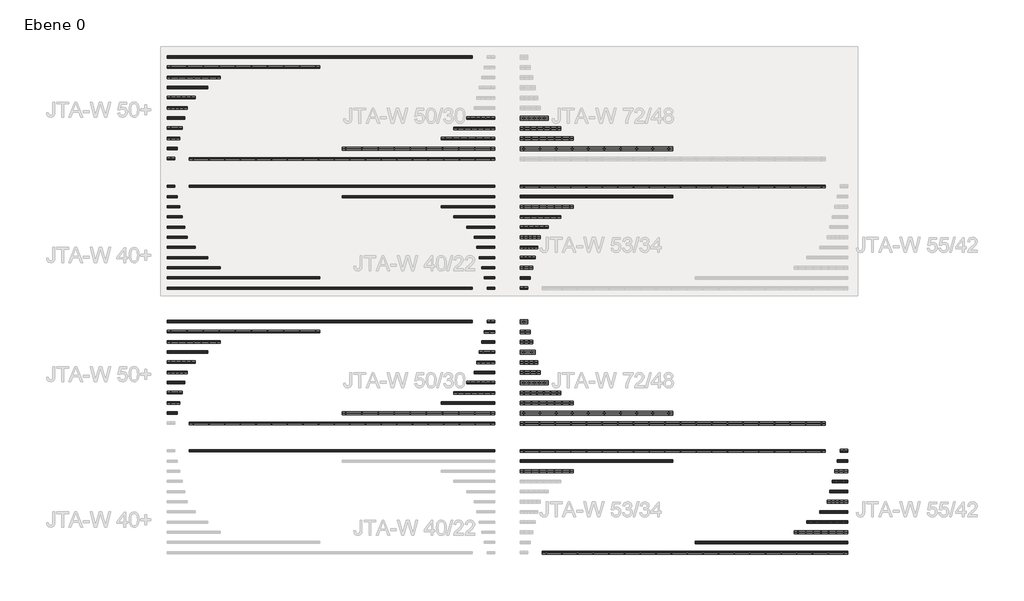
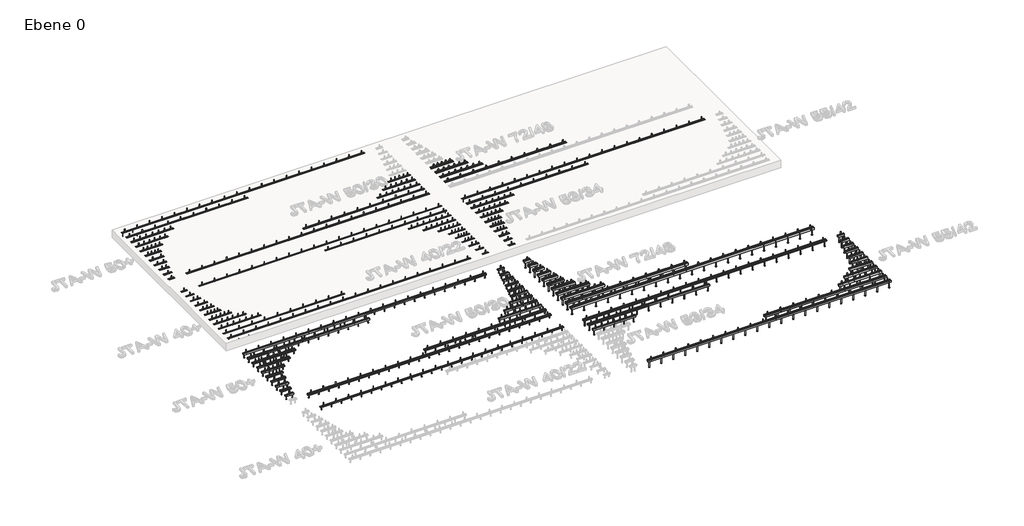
# One storey, part 2 of 5: 100 fasteners.
"""IFC4 building model written with IfcOpenShell, lengths in millimetres."""

from ifc_helpers import new_model, si_unit, origin, place, context, project, spatial, transform, mapped, element, save
from components import fastener_29043b39, fastener_6a5caa7f, fastener_70fd4501, fastener_dd962dd3, fastener_63425f2b, fastener_02e16a5b, fastener_7793e029, fastener_10b2d5fe, fastener_78868887, fastener_e7c263a5, fastener_f3c3fdf5, fastener_d3d58a7e, fastener_ccbf12a1, fastener_12655446, fastener_6a6cae50, fastener_9fe78c77, fastener_219282b4, fastener_0afebf88, fastener_de041d71, fastener_a6c46896, fastener_6a71478e, fastener_4ab2e279, fastener_b22f92c5, fastener_85eb7262, fastener_29dfb67c, fastener_47a1bfda, fastener_4e2e3fd8, fastener_60a0e345, fastener_ccac5bf2, fastener_07762de3, fastener_856946d6, fastener_4e789cc8, fastener_1a17a586, fastener_d3d8a801, fastener_fac80bb2, fastener_f6934170, fastener_d2bac832, fastener_f3e18b2c, fastener_079a92b3, fastener_619edde3, fastener_78b8b859, fastener_fb3cec1f, fastener_ee92d8f7, fastener_15134835, fastener_bc0e0492, fastener_2f8d67ed, fastener_759e0575, fastener_c9796623, fastener_be18af22, fastener_ec209d90, fastener_58838e9d, fastener_85298e3f, fastener_76e350a3, fastener_f8aa0450, fastener_16a89f6c, fastener_32b4dd40, fastener_90f1b800, fastener_e199b68b, fastener_eb7ec72f, fastener_c7c1462d, fastener_3b5695ac, fastener_a81f9f25, fastener_b51df3b7, fastener_682311e9, fastener_55e4fc31, fastener_ce59bcd4, fastener_0ec726aa, fastener_f13404a8, fastener_590a0ea5, fastener_1f1ea62b, fastener_f18ef81e, fastener_d6b95dcd, fastener_27d0183c, fastener_af873e41, fastener_db2bdcac, fastener_4b748c20, fastener_e20cea6d, fastener_a5573b8c, fastener_95f84b24, fastener_7f6a9965, fastener_aa8f82e4, fastener_445ed979, fastener_8da7cda9, fastener_efa6f67a, fastener_254a00a1, fastener_9eb7d3e3, fastener_03d0444e, fastener_d1a5e5d3, fastener_f914a689, fastener_d06169fd, fastener_35095dbe, fastener_af97386c, fastener_28f62583, fastener_04aeaee6, fastener_9d3a3b20, fastener_4537a4bb, fastener_f3c19d08, fastener_6b79ad14, fastener_a4edf127, fastener_a86c2ace, fastener_a53ba8c5, fastener_dd1fd8bc, fastener_4d909be3

model = new_model("IFC4")

# Units and contexts
model_context = context("Model", 3, world=origin())
ifc_project = project(units=[si_unit("LENGTHUNIT", "METRE", prefix="MILLI")], contexts=[model_context])

# Site, building, storey
site = spatial("IfcSite", under=ifc_project)
building = spatial("IfcBuilding", under=site)
storey = spatial("IfcBuildingStorey", under=building, Name="Ebene 0", Elevation=0.0)

# Fasteners
placement = place(None, origin())
fastener_shape = fastener_29043b39(model_context)
element("IfcFastener", 1, ObjectType="JTA-W JORDAHL® AnchorChannels : JTA-W L=300 mm", at=placement, inside=storey, context=model_context, shape_type="MappedRepresentation", body=[
    mapped(fastener_shape, transform((-7643.969712, 4019.2634587, 0.0), x_axis=(1.0, 0.0, 0.0), y_axis=(0.0, 1.0, 0.0), z_axis=(0.0, 0.0, 1.0))),
])
fastener_2_shape = fastener_6a5caa7f(model_context)
fastener_3_shape = fastener_70fd4501(model_context)
fastener_4_shape = fastener_dd962dd3(model_context)
fastener_5_shape = fastener_63425f2b(model_context)
element("IfcFastener", 2, ObjectType="JTA-W JORDAHL® AnchorChannels : JTA-W L=6000 mm", at=placement, inside=storey, context=model_context, shape_type="MappedRepresentation", body=[
    mapped(fastener_2_shape, transform((-7643.969712, 2619.2634587, 0.0), x_axis=(1.0, 0.0, 0.0), y_axis=(0.0, 1.0, 0.0), z_axis=(0.0, 0.0, 1.0))),
    mapped(fastener_3_shape, transform((-7643.969712, 2619.2634587, 0.0), x_axis=(1.0, 0.0, 0.0), y_axis=(0.0, 1.0, 0.0), z_axis=(0.0, 0.0, 1.0))),
    mapped(fastener_4_shape, transform((-7643.969712, 2619.2634587, 0.0), x_axis=(1.0, 0.0, 0.0), y_axis=(0.0, 1.0, 0.0), z_axis=(0.0, 0.0, 1.0))),
    mapped(fastener_5_shape, transform((-7643.969712, 2619.2634587, 0.0), x_axis=(1.0, 0.0, 0.0), y_axis=(0.0, 1.0, 0.0), z_axis=(0.0, 0.0, 1.0))),
])
fastener_6_shape = fastener_02e16a5b(model_context)
fastener_7_shape = fastener_7793e029(model_context)
element("IfcFastener", 3, ObjectType="JTA-W JORDAHL® AnchorChannels : JTA-W L=3000 mm", at=placement, inside=storey, context=model_context, shape_type="MappedRepresentation", body=[
    mapped(fastener_6_shape, transform((-7643.969712, 2819.2634587, 0.0), x_axis=(1.0, 0.0, 0.0), y_axis=(0.0, 1.0, 0.0), z_axis=(0.0, 0.0, 1.0))),
    mapped(fastener_7_shape, transform((-7643.969712, 2819.2634587, 0.0), x_axis=(1.0, 0.0, 0.0), y_axis=(0.0, 1.0, 0.0), z_axis=(0.0, 0.0, 1.0))),
])
fastener_8_shape = fastener_10b2d5fe(model_context)
element("IfcFastener", 4, ObjectType="JTA-W JORDAHL® AnchorChannels : JTA-W L=1050 mm", at=placement, inside=storey, context=model_context, shape_type="MappedRepresentation", body=[
    mapped(fastener_8_shape, transform((-7643.969712, 3019.2634587, 0.0), x_axis=(1.0, 0.0, 0.0), y_axis=(0.0, 1.0, 0.0), z_axis=(0.0, 0.0, 1.0))),
])
fastener_9_shape = fastener_78868887(model_context)
element("IfcFastener", 5, ObjectType="JTA-W JORDAHL® AnchorChannels : JTA-W L=800 mm", at=placement, inside=storey, context=model_context, shape_type="MappedRepresentation", body=[
    mapped(fastener_9_shape, transform((-7643.969712, 3219.2634587, 0.0), x_axis=(1.0, 0.0, 0.0), y_axis=(0.0, 1.0, 0.0), z_axis=(0.0, 0.0, 1.0))),
])
fastener_10_shape = fastener_e7c263a5(model_context)
element("IfcFastener", 6, ObjectType="JTA-W JORDAHL® AnchorChannels : JTA-W L=550 mm", at=placement, inside=storey, context=model_context, shape_type="MappedRepresentation", body=[
    mapped(fastener_10_shape, transform((-7643.969712, 3419.2634587, 0.0), x_axis=(1.0, 0.0, 0.0), y_axis=(0.0, 1.0, 0.0), z_axis=(0.0, 0.0, 1.0))),
])
fastener_11_shape = fastener_f3c3fdf5(model_context)
element("IfcFastener", 7, ObjectType="JTA-W JORDAHL® AnchorChannels : JTA-W L=400 mm", at=placement, inside=storey, context=model_context, shape_type="MappedRepresentation", body=[
    mapped(fastener_11_shape, transform((-7643.969712, 3619.2634587, 0.0), x_axis=(1.0, 0.0, 0.0), y_axis=(0.0, 1.0, 0.0), z_axis=(0.0, 0.0, 1.0))),
])
fastener_12_shape = fastener_d3d58a7e(model_context)
element("IfcFastener", 8, ObjectType="JTA-W JORDAHL® AnchorChannels : JTA-W L=350 mm", at=placement, inside=storey, context=model_context, shape_type="MappedRepresentation", body=[
    mapped(fastener_12_shape, transform((-7643.969712, 3819.2634587, 0.0), x_axis=(1.0, 0.0, 0.0), y_axis=(0.0, 1.0, 0.0), z_axis=(0.0, 0.0, 1.0))),
])
fastener_13_shape = fastener_ccbf12a1(model_context)
element("IfcFastener", 9, ObjectType="JTA-W JORDAHL® AnchorChannels : JTA-W L=250 mm", at=placement, inside=storey, context=model_context, shape_type="MappedRepresentation", body=[
    mapped(fastener_13_shape, transform((-7643.969712, 4219.2634587, 0.0), x_axis=(1.0, 0.0, 0.0), y_axis=(0.0, 1.0, 0.0), z_axis=(0.0, 0.0, 1.0))),
])
fastener_14_shape = fastener_12655446(model_context)
element("IfcFastener", 10, ObjectType="JTA-W JORDAHL® AnchorChannels : JTA-W L=200 mm", at=placement, inside=storey, context=model_context, shape_type="MappedRepresentation", body=[
    mapped(fastener_14_shape, transform((-7643.969712, 4419.2634587, 0.0), x_axis=(1.0, 0.0, 0.0), y_axis=(0.0, 1.0, 0.0), z_axis=(0.0, 0.0, 1.0))),
])
fastener_15_shape = fastener_6a6cae50(model_context)
element("IfcFastener", 11, ObjectType="JTA-W JORDAHL® AnchorChannels : JTA-W L=150 mm", at=placement, inside=storey, context=model_context, shape_type="MappedRepresentation", body=[
    mapped(fastener_15_shape, transform((-7643.969712, 4619.2634587, 0.0), x_axis=(1.0, 0.0, 0.0), y_axis=(0.0, 1.0, 0.0), z_axis=(0.0, 0.0, 1.0))),
])
fastener_16_shape = fastener_9fe78c77(model_context)
fastener_17_shape = fastener_219282b4(model_context)
fastener_18_shape = fastener_0afebf88(model_context)
fastener_19_shape = fastener_de041d71(model_context)
element("IfcFastener", 12, ObjectType="JTA-W JORDAHL® AnchorChannels : JTA-W L=6000 mm", at=placement, inside=storey, context=model_context, shape_type="MappedRepresentation", body=[
    mapped(fastener_16_shape, transform((-7643.969712, 7164.3067374, 0.0), x_axis=(1.0, 0.0, 0.0), y_axis=(0.0, 1.0, 0.0), z_axis=(0.0, 0.0, 1.0))),
    mapped(fastener_17_shape, transform((-7643.969712, 7164.3067374, 0.0), x_axis=(1.0, 0.0, 0.0), y_axis=(0.0, 1.0, 0.0), z_axis=(0.0, 0.0, 1.0))),
    mapped(fastener_18_shape, transform((-7643.969712, 7164.3067374, 0.0), x_axis=(1.0, 0.0, 0.0), y_axis=(0.0, 1.0, 0.0), z_axis=(0.0, 0.0, 1.0))),
    mapped(fastener_19_shape, transform((-7643.969712, 7164.3067374, 0.0), x_axis=(1.0, 0.0, 0.0), y_axis=(0.0, 1.0, 0.0), z_axis=(0.0, 0.0, 1.0))),
])
element("IfcFastener", 13, ObjectType="JTA-W JORDAHL® AnchorChannels : JTA-W L=6000 mm", at=placement, inside=storey, context=model_context, shape_type="MappedRepresentation", body=[
    mapped(fastener_16_shape, transform((-7643.969712, 1964.3067374, 0.0), x_axis=(1.0, 0.0, 0.0), y_axis=(0.0, 1.0, 0.0), z_axis=(0.0, 0.0, 1.0))),
    mapped(fastener_17_shape, transform((-7643.969712, 1964.3067374, 0.0), x_axis=(1.0, 0.0, 0.0), y_axis=(0.0, 1.0, 0.0), z_axis=(0.0, 0.0, 1.0))),
    mapped(fastener_18_shape, transform((-7643.969712, 1964.3067374, 0.0), x_axis=(1.0, 0.0, 0.0), y_axis=(0.0, 1.0, 0.0), z_axis=(0.0, 0.0, 1.0))),
    mapped(fastener_19_shape, transform((-7643.969712, 1964.3067374, 0.0), x_axis=(1.0, 0.0, 0.0), y_axis=(0.0, 1.0, 0.0), z_axis=(0.0, 0.0, 1.0))),
])
fastener_20_shape = fastener_a6c46896(model_context)
fastener_21_shape = fastener_6a71478e(model_context)
element("IfcFastener", 14, ObjectType="JTA-W JORDAHL® AnchorChannels : JTA-W L=3000 mm", at=placement, inside=storey, context=model_context, shape_type="MappedRepresentation", body=[
    mapped(fastener_20_shape, transform((-7643.969712, 6964.3067374, 0.0), x_axis=(1.0, 0.0, 0.0), y_axis=(0.0, 1.0, 0.0), z_axis=(0.0, 0.0, 1.0))),
    mapped(fastener_21_shape, transform((-7643.969712, 6964.3067374, 0.0), x_axis=(1.0, 0.0, 0.0), y_axis=(0.0, 1.0, 0.0), z_axis=(0.0, 0.0, 1.0))),
])
element("IfcFastener", 15, ObjectType="JTA-W JORDAHL® AnchorChannels : JTA-W L=3000 mm", at=placement, inside=storey, context=model_context, shape_type="MappedRepresentation", body=[
    mapped(fastener_20_shape, transform((-7643.969712, 1764.3067374, 0.0), x_axis=(1.0, 0.0, 0.0), y_axis=(0.0, 1.0, 0.0), z_axis=(0.0, 0.0, 1.0))),
    mapped(fastener_21_shape, transform((-7643.969712, 1764.3067374, 0.0), x_axis=(1.0, 0.0, 0.0), y_axis=(0.0, 1.0, 0.0), z_axis=(0.0, 0.0, 1.0))),
])
fastener_22_shape = fastener_4ab2e279(model_context)
element("IfcFastener", 16, ObjectType="JTA-W JORDAHL® AnchorChannels : JTA-W L=1050 mm", at=placement, inside=storey, context=model_context, shape_type="MappedRepresentation", body=[
    mapped(fastener_22_shape, transform((-7643.969712, 6764.3067374, 0.0), x_axis=(1.0, 0.0, 0.0), y_axis=(0.0, 1.0, 0.0), z_axis=(0.0, 0.0, 1.0))),
])
element("IfcFastener", 17, ObjectType="JTA-W JORDAHL® AnchorChannels : JTA-W L=1050 mm", at=placement, inside=storey, context=model_context, shape_type="MappedRepresentation", body=[
    mapped(fastener_22_shape, transform((-7643.969712, 1564.3067374, 0.0), x_axis=(1.0, 0.0, 0.0), y_axis=(0.0, 1.0, 0.0), z_axis=(0.0, 0.0, 1.0))),
])
fastener_23_shape = fastener_b22f92c5(model_context)
element("IfcFastener", 18, ObjectType="JTA-W JORDAHL® AnchorChannels : JTA-W L=800 mm", at=placement, inside=storey, context=model_context, shape_type="MappedRepresentation", body=[
    mapped(fastener_23_shape, transform((-7643.969712, 6564.3067374, 0.0), x_axis=(1.0, 0.0, 0.0), y_axis=(0.0, 1.0, 0.0), z_axis=(0.0, 0.0, 1.0))),
])
element("IfcFastener", 19, ObjectType="JTA-W JORDAHL® AnchorChannels : JTA-W L=800 mm", at=placement, inside=storey, context=model_context, shape_type="MappedRepresentation", body=[
    mapped(fastener_23_shape, transform((-7643.969712, 1364.3067374, 0.0), x_axis=(1.0, 0.0, 0.0), y_axis=(0.0, 1.0, 0.0), z_axis=(0.0, 0.0, 1.0))),
])
fastener_24_shape = fastener_85eb7262(model_context)
element("IfcFastener", 20, ObjectType="JTA-W JORDAHL® AnchorChannels : JTA-W L=550 mm", at=placement, inside=storey, context=model_context, shape_type="MappedRepresentation", body=[
    mapped(fastener_24_shape, transform((-7643.969712, 6364.3067374, 0.0), x_axis=(1.0, 0.0, 0.0), y_axis=(0.0, 1.0, 0.0), z_axis=(0.0, 0.0, 1.0))),
])
element("IfcFastener", 21, ObjectType="JTA-W JORDAHL® AnchorChannels : JTA-W L=550 mm", at=placement, inside=storey, context=model_context, shape_type="MappedRepresentation", body=[
    mapped(fastener_24_shape, transform((-7643.969712, 1164.3067374, 0.0), x_axis=(1.0, 0.0, 0.0), y_axis=(0.0, 1.0, 0.0), z_axis=(0.0, 0.0, 1.0))),
])
fastener_25_shape = fastener_29dfb67c(model_context)
element("IfcFastener", 22, ObjectType="JTA-W JORDAHL® AnchorChannels : JTA-W L=400 mm", at=placement, inside=storey, context=model_context, shape_type="MappedRepresentation", body=[
    mapped(fastener_25_shape, transform((-7643.969712, 6164.3067374, 0.0), x_axis=(1.0, 0.0, 0.0), y_axis=(0.0, 1.0, 0.0), z_axis=(0.0, 0.0, 1.0))),
])
element("IfcFastener", 23, ObjectType="JTA-W JORDAHL® AnchorChannels : JTA-W L=400 mm", at=placement, inside=storey, context=model_context, shape_type="MappedRepresentation", body=[
    mapped(fastener_25_shape, transform((-7643.969712, 964.3067374, 0.0), x_axis=(1.0, 0.0, 0.0), y_axis=(0.0, 1.0, 0.0), z_axis=(0.0, 0.0, 1.0))),
])
fastener_26_shape = fastener_47a1bfda(model_context)
element("IfcFastener", 24, ObjectType="JTA-W JORDAHL® AnchorChannels : JTA-W L=350 mm", at=placement, inside=storey, context=model_context, shape_type="MappedRepresentation", body=[
    mapped(fastener_26_shape, transform((-7643.969712, 5964.3067374, 0.0), x_axis=(1.0, 0.0, 0.0), y_axis=(0.0, 1.0, 0.0), z_axis=(0.0, 0.0, 1.0))),
])
element("IfcFastener", 25, ObjectType="JTA-W JORDAHL® AnchorChannels : JTA-W L=350 mm", at=placement, inside=storey, context=model_context, shape_type="MappedRepresentation", body=[
    mapped(fastener_26_shape, transform((-7643.969712, 764.3067374, 0.0), x_axis=(1.0, 0.0, 0.0), y_axis=(0.0, 1.0, 0.0), z_axis=(0.0, 0.0, 1.0))),
])
fastener_27_shape = fastener_4e2e3fd8(model_context)
element("IfcFastener", 26, ObjectType="JTA-W JORDAHL® AnchorChannels : JTA-W L=300 mm", at=placement, inside=storey, context=model_context, shape_type="MappedRepresentation", body=[
    mapped(fastener_27_shape, transform((-7643.969712, 5764.3067374, 0.0), x_axis=(1.0, 0.0, 0.0), y_axis=(0.0, 1.0, 0.0), z_axis=(0.0, 0.0, 1.0))),
])
element("IfcFastener", 27, ObjectType="JTA-W JORDAHL® AnchorChannels : JTA-W L=300 mm", at=placement, inside=storey, context=model_context, shape_type="MappedRepresentation", body=[
    mapped(fastener_27_shape, transform((-7643.969712, 564.3067374, 0.0), x_axis=(1.0, 0.0, 0.0), y_axis=(0.0, 1.0, 0.0), z_axis=(0.0, 0.0, 1.0))),
])
fastener_28_shape = fastener_60a0e345(model_context)
element("IfcFastener", 28, ObjectType="JTA-W JORDAHL® AnchorChannels : JTA-W L=250 mm", at=placement, inside=storey, context=model_context, shape_type="MappedRepresentation", body=[
    mapped(fastener_28_shape, transform((-7643.969712, 5564.3067374, 0.0), x_axis=(1.0, 0.0, 0.0), y_axis=(0.0, 1.0, 0.0), z_axis=(0.0, 0.0, 1.0))),
])
element("IfcFastener", 29, ObjectType="JTA-W JORDAHL® AnchorChannels : JTA-W L=250 mm", at=placement, inside=storey, context=model_context, shape_type="MappedRepresentation", body=[
    mapped(fastener_28_shape, transform((-7643.969712, 364.3067374, 0.0), x_axis=(1.0, 0.0, 0.0), y_axis=(0.0, 1.0, 0.0), z_axis=(0.0, 0.0, 1.0))),
])
fastener_29_shape = fastener_ccac5bf2(model_context)
element("IfcFastener", 30, ObjectType="JTA-W JORDAHL® AnchorChannels : JTA-W L=200 mm", at=placement, inside=storey, context=model_context, shape_type="MappedRepresentation", body=[
    mapped(fastener_29_shape, transform((-7643.969712, 5364.3067374, 0.0), x_axis=(1.0, 0.0, 0.0), y_axis=(0.0, 1.0, 0.0), z_axis=(0.0, 0.0, 1.0))),
])
element("IfcFastener", 31, ObjectType="JTA-W JORDAHL® AnchorChannels : JTA-W L=200 mm", at=placement, inside=storey, context=model_context, shape_type="MappedRepresentation", body=[
    mapped(fastener_29_shape, transform((-7643.969712, 164.3067374, 0.0), x_axis=(1.0, 0.0, 0.0), y_axis=(0.0, 1.0, 0.0), z_axis=(0.0, 0.0, 1.0))),
])
fastener_30_shape = fastener_07762de3(model_context)
element("IfcFastener", 32, ObjectType="JTA-W JORDAHL® AnchorChannels : JTA-W L=150 mm", at=placement, inside=storey, context=model_context, shape_type="MappedRepresentation", body=[
    mapped(fastener_30_shape, transform((-7643.969712, 5164.3067374, 0.0), x_axis=(1.0, 0.0, 0.0), y_axis=(0.0, 1.0, 0.0), z_axis=(0.0, 0.0, 1.0))),
])
fastener_31_shape = fastener_856946d6(model_context)
element("IfcFastener", 33, ObjectType="JTA-W JORDAHL® AnchorChannels : JTA-W L=150 mm", at=placement, inside=storey, context=model_context, shape_type="MappedRepresentation", body=[
    mapped(fastener_31_shape, transform((-1203.969712, 2619.2634587, 0.0), x_axis=(-1.0, 0.0, 0.0), y_axis=(0.0, -1.0, 0.0), z_axis=(0.0, 0.0, 1.0))),
])
fastener_32_shape = fastener_4e789cc8(model_context)
element("IfcFastener", 34, ObjectType="JTA-W JORDAHL® AnchorChannels : JTA-W L=200 mm", at=placement, inside=storey, context=model_context, shape_type="MappedRepresentation", body=[
    mapped(fastener_32_shape, transform((-1203.969712, 2819.2634587, 0.0), x_axis=(-1.0, 0.0, 0.0), y_axis=(0.0, -1.0, 0.0), z_axis=(0.0, 0.0, 1.0))),
])
fastener_33_shape = fastener_1a17a586(model_context)
element("IfcFastener", 35, ObjectType="JTA-W JORDAHL® AnchorChannels : JTA-W L=250 mm", at=placement, inside=storey, context=model_context, shape_type="MappedRepresentation", body=[
    mapped(fastener_33_shape, transform((-1203.969712, 3019.2634587, 0.0), x_axis=(-1.0, 0.0, 0.0), y_axis=(0.0, -1.0, 0.0), z_axis=(0.0, 0.0, 1.0))),
])
fastener_34_shape = fastener_d3d8a801(model_context)
element("IfcFastener", 36, ObjectType="JTA-W JORDAHL® AnchorChannels : JTA-W L=300 mm", at=placement, inside=storey, context=model_context, shape_type="MappedRepresentation", body=[
    mapped(fastener_34_shape, transform((-1203.969712, 3219.2634587, 0.0), x_axis=(-1.0, 0.0, 0.0), y_axis=(0.0, -1.0, 0.0), z_axis=(0.0, 0.0, 1.0))),
])
fastener_35_shape = fastener_fac80bb2(model_context)
element("IfcFastener", 37, ObjectType="JTA-W JORDAHL® AnchorChannels : JTA-W L=350 mm", at=placement, inside=storey, context=model_context, shape_type="MappedRepresentation", body=[
    mapped(fastener_35_shape, transform((-1203.969712, 3419.2634587, 0.0), x_axis=(-1.0, 0.0, 0.0), y_axis=(0.0, -1.0, 0.0), z_axis=(0.0, 0.0, 1.0))),
])
fastener_36_shape = fastener_f6934170(model_context)
element("IfcFastener", 38, ObjectType="JTA-W JORDAHL® AnchorChannels : JTA-W L=400 mm", at=placement, inside=storey, context=model_context, shape_type="MappedRepresentation", body=[
    mapped(fastener_36_shape, transform((-1203.969712, 3619.2634587, 0.0), x_axis=(-1.0, 0.0, 0.0), y_axis=(0.0, -1.0, 0.0), z_axis=(0.0, 0.0, 1.0))),
])
fastener_37_shape = fastener_d2bac832(model_context)
element("IfcFastener", 39, ObjectType="JTA-W JORDAHL® AnchorChannels : JTA-W L=550 mm", at=placement, inside=storey, context=model_context, shape_type="MappedRepresentation", body=[
    mapped(fastener_37_shape, transform((-1203.969712, 3819.2634587, 0.0), x_axis=(-1.0, 0.0, 0.0), y_axis=(0.0, -1.0, 0.0), z_axis=(0.0, 0.0, 1.0))),
])
fastener_38_shape = fastener_f3e18b2c(model_context)
element("IfcFastener", 40, ObjectType="JTA-W JORDAHL® AnchorChannels : JTA-W L=800 mm", at=placement, inside=storey, context=model_context, shape_type="MappedRepresentation", body=[
    mapped(fastener_38_shape, transform((-1203.969712, 4019.2634587, 0.0), x_axis=(-1.0, 0.0, 0.0), y_axis=(0.0, -1.0, 0.0), z_axis=(0.0, 0.0, 1.0))),
])
fastener_39_shape = fastener_079a92b3(model_context)
element("IfcFastener", 41, ObjectType="JTA-W JORDAHL® AnchorChannels : JTA-W L=1050 mm", at=placement, inside=storey, context=model_context, shape_type="MappedRepresentation", body=[
    mapped(fastener_39_shape, transform((-1203.969712, 4219.2634587, 0.0), x_axis=(-1.0, 0.0, 0.0), y_axis=(0.0, -1.0, 0.0), z_axis=(0.0, 0.0, 1.0))),
])
fastener_40_shape = fastener_619edde3(model_context)
fastener_41_shape = fastener_78b8b859(model_context)
element("IfcFastener", 42, ObjectType="JTA-W JORDAHL® AnchorChannels : JTA-W L=3000 mm", at=placement, inside=storey, context=model_context, shape_type="MappedRepresentation", body=[
    mapped(fastener_40_shape, transform((-1203.969712, 4419.2634587, 0.0), x_axis=(-1.0, 0.0, 0.0), y_axis=(0.0, -1.0, 0.0), z_axis=(0.0, 0.0, 1.0))),
    mapped(fastener_41_shape, transform((-1203.969712, 4419.2634587, 0.0), x_axis=(-1.0, 0.0, 0.0), y_axis=(0.0, -1.0, 0.0), z_axis=(0.0, 0.0, 1.0))),
])
fastener_42_shape = fastener_fb3cec1f(model_context)
fastener_43_shape = fastener_ee92d8f7(model_context)
fastener_44_shape = fastener_15134835(model_context)
element("IfcFastener", 43, ObjectType="JTA-W JORDAHL® AnchorChannels : JTA-W L=6000 mm", at=placement, inside=storey, context=model_context, shape_type="MappedRepresentation", body=[
    mapped(fastener_2_shape, transform((-1203.969712, 4619.2634587, 0.0), x_axis=(-1.0, 0.0, 0.0), y_axis=(0.0, -1.0, 0.0), z_axis=(0.0, 0.0, 1.0))),
    mapped(fastener_42_shape, transform((-1203.969712, 4619.2634587, 0.0), x_axis=(-1.0, 0.0, 0.0), y_axis=(0.0, -1.0, 0.0), z_axis=(0.0, 0.0, 1.0))),
    mapped(fastener_43_shape, transform((-1203.969712, 4619.2634587, 0.0), x_axis=(-1.0, 0.0, 0.0), y_axis=(0.0, -1.0, 0.0), z_axis=(0.0, 0.0, 1.0))),
    mapped(fastener_44_shape, transform((-1203.969712, 4619.2634587, 0.0), x_axis=(-1.0, 0.0, 0.0), y_axis=(0.0, -1.0, 0.0), z_axis=(0.0, 0.0, 1.0))),
])
element("IfcFastener", 44, ObjectType="JTA-W JORDAHL® AnchorChannels : JTA-W L=6000 mm", at=placement, inside=storey, context=model_context, shape_type="MappedRepresentation", body=[
    mapped(fastener_2_shape, transform((-1203.969712, -580.7365413, 0.0), x_axis=(-1.0, 0.0, 0.0), y_axis=(0.0, -1.0, 0.0), z_axis=(0.0, 0.0, 1.0))),
    mapped(fastener_42_shape, transform((-1203.969712, -580.7365413, 0.0), x_axis=(-1.0, 0.0, 0.0), y_axis=(0.0, -1.0, 0.0), z_axis=(0.0, 0.0, 1.0))),
    mapped(fastener_43_shape, transform((-1203.969712, -580.7365413, 0.0), x_axis=(-1.0, 0.0, 0.0), y_axis=(0.0, -1.0, 0.0), z_axis=(0.0, 0.0, 1.0))),
    mapped(fastener_44_shape, transform((-1203.969712, -580.7365413, 0.0), x_axis=(-1.0, 0.0, 0.0), y_axis=(0.0, -1.0, 0.0), z_axis=(0.0, 0.0, 1.0))),
])
fastener_45_shape = fastener_bc0e0492(model_context)
element("IfcFastener", 45, ObjectType="JTA-W JORDAHL® AnchorChannels : JTA-W L=150 mm", at=placement, inside=storey, context=model_context, shape_type="MappedRepresentation", body=[
    mapped(fastener_45_shape, transform((-1203.969712, 1959.2634587, 0.0), x_axis=(-1.0, 0.0, 0.0), y_axis=(0.0, -1.0, 0.0), z_axis=(0.0, 0.0, 1.0))),
])
fastener_46_shape = fastener_2f8d67ed(model_context)
element("IfcFastener", 46, ObjectType="JTA-W JORDAHL® AnchorChannels : JTA-W L=200 mm", at=placement, inside=storey, context=model_context, shape_type="MappedRepresentation", body=[
    mapped(fastener_46_shape, transform((-1203.969712, 1759.2634587, 0.0), x_axis=(-1.0, 0.0, 0.0), y_axis=(0.0, -1.0, 0.0), z_axis=(0.0, 0.0, 1.0))),
])
fastener_47_shape = fastener_759e0575(model_context)
element("IfcFastener", 47, ObjectType="JTA-W JORDAHL® AnchorChannels : JTA-W L=250 mm", at=placement, inside=storey, context=model_context, shape_type="MappedRepresentation", body=[
    mapped(fastener_47_shape, transform((-1203.969712, 1559.2634587, 0.0), x_axis=(-1.0, 0.0, 0.0), y_axis=(0.0, -1.0, 0.0), z_axis=(0.0, 0.0, 1.0))),
])
fastener_48_shape = fastener_c9796623(model_context)
element("IfcFastener", 48, ObjectType="JTA-W JORDAHL® AnchorChannels : JTA-W L=300 mm", at=placement, inside=storey, context=model_context, shape_type="MappedRepresentation", body=[
    mapped(fastener_48_shape, transform((-1203.969712, 1359.2634587, 0.0), x_axis=(-1.0, 0.0, 0.0), y_axis=(0.0, -1.0, 0.0), z_axis=(0.0, 0.0, 1.0))),
])
fastener_49_shape = fastener_be18af22(model_context)
element("IfcFastener", 49, ObjectType="JTA-W JORDAHL® AnchorChannels : JTA-W L=350 mm", at=placement, inside=storey, context=model_context, shape_type="MappedRepresentation", body=[
    mapped(fastener_49_shape, transform((-1203.969712, 1159.2634587, 0.0), x_axis=(-1.0, 0.0, 0.0), y_axis=(0.0, -1.0, 0.0), z_axis=(0.0, 0.0, 1.0))),
])
fastener_50_shape = fastener_ec209d90(model_context)
element("IfcFastener", 50, ObjectType="JTA-W JORDAHL® AnchorChannels : JTA-W L=400 mm", at=placement, inside=storey, context=model_context, shape_type="MappedRepresentation", body=[
    mapped(fastener_50_shape, transform((-1203.969712, 959.2634587, 0.0), x_axis=(-1.0, 0.0, 0.0), y_axis=(0.0, -1.0, 0.0), z_axis=(0.0, 0.0, 1.0))),
])
fastener_51_shape = fastener_58838e9d(model_context)
element("IfcFastener", 51, ObjectType="JTA-W JORDAHL® AnchorChannels : JTA-W L=550 mm", at=placement, inside=storey, context=model_context, shape_type="MappedRepresentation", body=[
    mapped(fastener_51_shape, transform((-1203.969712, 5959.2634587, 0.0), x_axis=(-1.0, 0.0, 0.0), y_axis=(0.0, -1.0, 0.0), z_axis=(0.0, 0.0, 1.0))),
])
element("IfcFastener", 52, ObjectType="JTA-W JORDAHL® AnchorChannels : JTA-W L=550 mm", at=placement, inside=storey, context=model_context, shape_type="MappedRepresentation", body=[
    mapped(fastener_51_shape, transform((-1203.969712, 759.2634587, 0.0), x_axis=(-1.0, 0.0, 0.0), y_axis=(0.0, -1.0, 0.0), z_axis=(0.0, 0.0, 1.0))),
])
fastener_52_shape = fastener_85298e3f(model_context)
element("IfcFastener", 53, ObjectType="JTA-W JORDAHL® AnchorChannels : JTA-W L=800 mm", at=placement, inside=storey, context=model_context, shape_type="MappedRepresentation", body=[
    mapped(fastener_52_shape, transform((-1203.969712, 5759.2634587, 0.0), x_axis=(-1.0, 0.0, 0.0), y_axis=(0.0, -1.0, 0.0), z_axis=(0.0, 0.0, 1.0))),
])
element("IfcFastener", 54, ObjectType="JTA-W JORDAHL® AnchorChannels : JTA-W L=800 mm", at=placement, inside=storey, context=model_context, shape_type="MappedRepresentation", body=[
    mapped(fastener_52_shape, transform((-1203.969712, 559.2634587, 0.0), x_axis=(-1.0, 0.0, 0.0), y_axis=(0.0, -1.0, 0.0), z_axis=(0.0, 0.0, 1.0))),
])
fastener_53_shape = fastener_76e350a3(model_context)
element("IfcFastener", 55, ObjectType="JTA-W JORDAHL® AnchorChannels : JTA-W L=1050 mm", at=placement, inside=storey, context=model_context, shape_type="MappedRepresentation", body=[
    mapped(fastener_53_shape, transform((-1203.969712, 5559.2634587, 0.0), x_axis=(-1.0, 0.0, 0.0), y_axis=(0.0, -1.0, 0.0), z_axis=(0.0, 0.0, 1.0))),
])
element("IfcFastener", 56, ObjectType="JTA-W JORDAHL® AnchorChannels : JTA-W L=1050 mm", at=placement, inside=storey, context=model_context, shape_type="MappedRepresentation", body=[
    mapped(fastener_53_shape, transform((-1203.969712, 359.2634587, 0.0), x_axis=(-1.0, 0.0, 0.0), y_axis=(0.0, -1.0, 0.0), z_axis=(0.0, 0.0, 1.0))),
])
fastener_54_shape = fastener_f8aa0450(model_context)
fastener_55_shape = fastener_16a89f6c(model_context)
element("IfcFastener", 57, ObjectType="JTA-W JORDAHL® AnchorChannels : JTA-W L=3000 mm", at=placement, inside=storey, context=model_context, shape_type="MappedRepresentation", body=[
    mapped(fastener_54_shape, transform((-1203.969712, 5359.2634587, 0.0), x_axis=(-1.0, 0.0, 0.0), y_axis=(0.0, -1.0, 0.0), z_axis=(0.0, 0.0, 1.0))),
    mapped(fastener_55_shape, transform((-1203.969712, 5359.2634587, 0.0), x_axis=(-1.0, 0.0, 0.0), y_axis=(0.0, -1.0, 0.0), z_axis=(0.0, 0.0, 1.0))),
])
element("IfcFastener", 58, ObjectType="JTA-W JORDAHL® AnchorChannels : JTA-W L=3000 mm", at=placement, inside=storey, context=model_context, shape_type="MappedRepresentation", body=[
    mapped(fastener_54_shape, transform((-1203.969712, 159.2634587, 0.0), x_axis=(-1.0, 0.0, 0.0), y_axis=(0.0, -1.0, 0.0), z_axis=(0.0, 0.0, 1.0))),
    mapped(fastener_55_shape, transform((-1203.969712, 159.2634587, 0.0), x_axis=(-1.0, 0.0, 0.0), y_axis=(0.0, -1.0, 0.0), z_axis=(0.0, 0.0, 1.0))),
])
fastener_56_shape = fastener_32b4dd40(model_context)
fastener_57_shape = fastener_90f1b800(model_context)
fastener_58_shape = fastener_e199b68b(model_context)
element("IfcFastener", 59, ObjectType="JTA-W JORDAHL® AnchorChannels : JTA-W L=6000 mm", at=placement, inside=storey, context=model_context, shape_type="MappedRepresentation", body=[
    mapped(fastener_16_shape, transform((-1203.969712, 5159.2634587, 0.0), x_axis=(-1.0, 0.0, 0.0), y_axis=(0.0, -1.0, 0.0), z_axis=(0.0, 0.0, 1.0))),
    mapped(fastener_56_shape, transform((-1203.969712, 5159.2634587, 0.0), x_axis=(-1.0, 0.0, 0.0), y_axis=(0.0, -1.0, 0.0), z_axis=(0.0, 0.0, 1.0))),
    mapped(fastener_57_shape, transform((-1203.969712, 5159.2634587, 0.0), x_axis=(-1.0, 0.0, 0.0), y_axis=(0.0, -1.0, 0.0), z_axis=(0.0, 0.0, 1.0))),
    mapped(fastener_58_shape, transform((-1203.969712, 5159.2634587, 0.0), x_axis=(-1.0, 0.0, 0.0), y_axis=(0.0, -1.0, 0.0), z_axis=(0.0, 0.0, 1.0))),
])
element("IfcFastener", 60, ObjectType="JTA-W JORDAHL® AnchorChannels : JTA-W L=6000 mm", at=placement, inside=storey, context=model_context, shape_type="MappedRepresentation", body=[
    mapped(fastener_16_shape, transform((-1203.969712, -40.7365413, 0.0), x_axis=(-1.0, 0.0, 0.0), y_axis=(0.0, -1.0, 0.0), z_axis=(0.0, 0.0, 1.0))),
    mapped(fastener_56_shape, transform((-1203.969712, -40.7365413, 0.0), x_axis=(-1.0, 0.0, 0.0), y_axis=(0.0, -1.0, 0.0), z_axis=(0.0, 0.0, 1.0))),
    mapped(fastener_57_shape, transform((-1203.969712, -40.7365413, 0.0), x_axis=(-1.0, 0.0, 0.0), y_axis=(0.0, -1.0, 0.0), z_axis=(0.0, 0.0, 1.0))),
    mapped(fastener_58_shape, transform((-1203.969712, -40.7365413, 0.0), x_axis=(-1.0, 0.0, 0.0), y_axis=(0.0, -1.0, 0.0), z_axis=(0.0, 0.0, 1.0))),
])
fastener_59_shape = fastener_eb7ec72f(model_context)
fastener_60_shape = fastener_c7c1462d(model_context)
fastener_61_shape = fastener_3b5695ac(model_context)
fastener_62_shape = fastener_a81f9f25(model_context)
element("IfcFastener", 61, ObjectType="JTA-W JORDAHL® AnchorChannels : JTA-W L=6000 mm", at=placement, inside=storey, context=model_context, shape_type="MappedRepresentation", body=[
    mapped(fastener_59_shape, transform((5736.030288, -2580.7365413, 0.0), x_axis=(-1.0, 0.0, 0.0), y_axis=(0.0, -1.0, 0.0), z_axis=(0.0, 0.0, 1.0))),
    mapped(fastener_60_shape, transform((5736.030288, -2580.7365413, 0.0), x_axis=(-1.0, 0.0, 0.0), y_axis=(0.0, -1.0, 0.0), z_axis=(0.0, 0.0, 1.0))),
    mapped(fastener_61_shape, transform((5736.030288, -2580.7365413, 0.0), x_axis=(-1.0, 0.0, 0.0), y_axis=(0.0, -1.0, 0.0), z_axis=(0.0, 0.0, 1.0))),
    mapped(fastener_62_shape, transform((5736.030288, -2580.7365413, 0.0), x_axis=(-1.0, 0.0, 0.0), y_axis=(0.0, -1.0, 0.0), z_axis=(0.0, 0.0, 1.0))),
])
fastener_63_shape = fastener_b51df3b7(model_context)
fastener_64_shape = fastener_682311e9(model_context)
element("IfcFastener", 62, ObjectType="JTA-W JORDAHL® AnchorChannels : JTA-W L=3000 mm", at=placement, inside=storey, context=model_context, shape_type="MappedRepresentation", body=[
    mapped(fastener_63_shape, transform((5736.030288, -2380.7365413, 0.0), x_axis=(-1.0, 0.0, 0.0), y_axis=(0.0, -1.0, 0.0), z_axis=(0.0, 0.0, 1.0))),
    mapped(fastener_64_shape, transform((5736.030288, -2380.7365413, 0.0), x_axis=(-1.0, 0.0, 0.0), y_axis=(0.0, -1.0, 0.0), z_axis=(0.0, 0.0, 1.0))),
])
fastener_65_shape = fastener_55e4fc31(model_context)
element("IfcFastener", 63, ObjectType="JTA-W JORDAHL® AnchorChannels : JTA-W L=1050 mm", at=placement, inside=storey, context=model_context, shape_type="MappedRepresentation", body=[
    mapped(fastener_65_shape, transform((5736.030288, -2180.7365413, 0.0), x_axis=(-1.0, 0.0, 0.0), y_axis=(0.0, -1.0, 0.0), z_axis=(0.0, 0.0, 1.0))),
])
fastener_66_shape = fastener_ce59bcd4(model_context)
element("IfcFastener", 64, ObjectType="JTA-W JORDAHL® AnchorChannels : JTA-W L=800 mm", at=placement, inside=storey, context=model_context, shape_type="MappedRepresentation", body=[
    mapped(fastener_66_shape, transform((5736.030288, -1980.7365413, 0.0), x_axis=(-1.0, 0.0, 0.0), y_axis=(0.0, -1.0, 0.0), z_axis=(0.0, 0.0, 1.0))),
])
fastener_67_shape = fastener_0ec726aa(model_context)
element("IfcFastener", 65, ObjectType="JTA-W JORDAHL® AnchorChannels : JTA-W L=550 mm", at=placement, inside=storey, context=model_context, shape_type="MappedRepresentation", body=[
    mapped(fastener_67_shape, transform((5736.030288, -1780.7365413, 0.0), x_axis=(-1.0, 0.0, 0.0), y_axis=(0.0, -1.0, 0.0), z_axis=(0.0, 0.0, 1.0))),
])
fastener_68_shape = fastener_f13404a8(model_context)
element("IfcFastener", 66, ObjectType="JTA-W JORDAHL® AnchorChannels : JTA-W L=400 mm", at=placement, inside=storey, context=model_context, shape_type="MappedRepresentation", body=[
    mapped(fastener_68_shape, transform((5736.030288, -1580.7365413, 0.0), x_axis=(-1.0, 0.0, 0.0), y_axis=(0.0, -1.0, 0.0), z_axis=(0.0, 0.0, 1.0))),
])
fastener_69_shape = fastener_590a0ea5(model_context)
element("IfcFastener", 67, ObjectType="JTA-W JORDAHL® AnchorChannels : JTA-W L=350 mm", at=placement, inside=storey, context=model_context, shape_type="MappedRepresentation", body=[
    mapped(fastener_69_shape, transform((5736.030288, -1380.7365413, 0.0), x_axis=(-1.0, 0.0, 0.0), y_axis=(0.0, -1.0, 0.0), z_axis=(0.0, 0.0, 1.0))),
])
fastener_70_shape = fastener_1f1ea62b(model_context)
element("IfcFastener", 68, ObjectType="JTA-W JORDAHL® AnchorChannels : JTA-W L=300 mm", at=placement, inside=storey, context=model_context, shape_type="MappedRepresentation", body=[
    mapped(fastener_70_shape, transform((5736.030288, -1180.7365413, 0.0), x_axis=(-1.0, 0.0, 0.0), y_axis=(0.0, -1.0, 0.0), z_axis=(0.0, 0.0, 1.0))),
])
fastener_71_shape = fastener_f18ef81e(model_context)
element("IfcFastener", 69, ObjectType="JTA-W JORDAHL® AnchorChannels : JTA-W L=250 mm", at=placement, inside=storey, context=model_context, shape_type="MappedRepresentation", body=[
    mapped(fastener_71_shape, transform((5736.030288, -980.7365413, 0.0), x_axis=(-1.0, 0.0, 0.0), y_axis=(0.0, -1.0, 0.0), z_axis=(0.0, 0.0, 1.0))),
])
fastener_72_shape = fastener_d6b95dcd(model_context)
element("IfcFastener", 70, ObjectType="JTA-W JORDAHL® AnchorChannels : JTA-W L=200 mm", at=placement, inside=storey, context=model_context, shape_type="MappedRepresentation", body=[
    mapped(fastener_72_shape, transform((5736.030288, -780.7365413, 0.0), x_axis=(-1.0, 0.0, 0.0), y_axis=(0.0, -1.0, 0.0), z_axis=(0.0, 0.0, 1.0))),
])
fastener_73_shape = fastener_27d0183c(model_context)
element("IfcFastener", 71, ObjectType="JTA-W JORDAHL® AnchorChannels : JTA-W L=150 mm", at=placement, inside=storey, context=model_context, shape_type="MappedRepresentation", body=[
    mapped(fastener_73_shape, transform((5736.030288, -580.7365413, 0.0), x_axis=(-1.0, 0.0, 0.0), y_axis=(0.0, -1.0, 0.0), z_axis=(0.0, 0.0, 1.0))),
])
fastener_74_shape = fastener_af873e41(model_context)
element("IfcFastener", 72, ObjectType="JTA-W JORDAHL® AnchorChannels : JTA-W L=150 mm", at=placement, inside=storey, context=model_context, shape_type="MappedRepresentation", body=[
    mapped(fastener_74_shape, transform((-703.969712, 2619.2634587, 0.0), x_axis=(1.0, 0.0, 0.0), y_axis=(0.0, 1.0, 0.0), z_axis=(0.0, 0.0, 1.0))),
])
fastener_75_shape = fastener_db2bdcac(model_context)
element("IfcFastener", 73, ObjectType="JTA-W JORDAHL® AnchorChannels : JTA-W L=200 mm", at=placement, inside=storey, context=model_context, shape_type="MappedRepresentation", body=[
    mapped(fastener_75_shape, transform((-703.969712, 2819.2634587, 0.0), x_axis=(1.0, 0.0, 0.0), y_axis=(0.0, 1.0, 0.0), z_axis=(0.0, 0.0, 1.0))),
])
fastener_76_shape = fastener_4b748c20(model_context)
element("IfcFastener", 74, ObjectType="JTA-W JORDAHL® AnchorChannels : JTA-W L=250 mm", at=placement, inside=storey, context=model_context, shape_type="MappedRepresentation", body=[
    mapped(fastener_76_shape, transform((-703.969712, 3019.2634587, 0.0), x_axis=(1.0, 0.0, 0.0), y_axis=(0.0, 1.0, 0.0), z_axis=(0.0, 0.0, 1.0))),
])
fastener_77_shape = fastener_e20cea6d(model_context)
element("IfcFastener", 75, ObjectType="JTA-W JORDAHL® AnchorChannels : JTA-W L=300 mm", at=placement, inside=storey, context=model_context, shape_type="MappedRepresentation", body=[
    mapped(fastener_77_shape, transform((-703.969712, 3219.2634587, 0.0), x_axis=(1.0, 0.0, 0.0), y_axis=(0.0, 1.0, 0.0), z_axis=(0.0, 0.0, 1.0))),
])
fastener_78_shape = fastener_a5573b8c(model_context)
element("IfcFastener", 76, ObjectType="JTA-W JORDAHL® AnchorChannels : JTA-W L=350 mm", at=placement, inside=storey, context=model_context, shape_type="MappedRepresentation", body=[
    mapped(fastener_78_shape, transform((-703.969712, 3419.2634587, 0.0), x_axis=(1.0, 0.0, 0.0), y_axis=(0.0, 1.0, 0.0), z_axis=(0.0, 0.0, 1.0))),
])
fastener_79_shape = fastener_95f84b24(model_context)
element("IfcFastener", 77, ObjectType="JTA-W JORDAHL® AnchorChannels : JTA-W L=400 mm", at=placement, inside=storey, context=model_context, shape_type="MappedRepresentation", body=[
    mapped(fastener_79_shape, transform((-703.969712, 3619.2634587, 0.0), x_axis=(1.0, 0.0, 0.0), y_axis=(0.0, 1.0, 0.0), z_axis=(0.0, 0.0, 1.0))),
])
fastener_80_shape = fastener_7f6a9965(model_context)
element("IfcFastener", 78, ObjectType="JTA-W JORDAHL® AnchorChannels : JTA-W L=550 mm", at=placement, inside=storey, context=model_context, shape_type="MappedRepresentation", body=[
    mapped(fastener_80_shape, transform((-703.969712, 3819.2634587, 0.0), x_axis=(1.0, 0.0, 0.0), y_axis=(0.0, 1.0, 0.0), z_axis=(0.0, 0.0, 1.0))),
])
fastener_81_shape = fastener_aa8f82e4(model_context)
element("IfcFastener", 79, ObjectType="JTA-W JORDAHL® AnchorChannels : JTA-W L=800 mm", at=placement, inside=storey, context=model_context, shape_type="MappedRepresentation", body=[
    mapped(fastener_81_shape, transform((-703.969712, 4019.2634587, 0.0), x_axis=(1.0, 0.0, 0.0), y_axis=(0.0, 1.0, 0.0), z_axis=(0.0, 0.0, 1.0))),
])
fastener_82_shape = fastener_445ed979(model_context)
element("IfcFastener", 80, ObjectType="JTA-W JORDAHL® AnchorChannels : JTA-W L=1050 mm", at=placement, inside=storey, context=model_context, shape_type="MappedRepresentation", body=[
    mapped(fastener_82_shape, transform((-703.969712, 4219.2634587, 0.0), x_axis=(1.0, 0.0, 0.0), y_axis=(0.0, 1.0, 0.0), z_axis=(0.0, 0.0, 1.0))),
])
element("IfcFastener", 81, ObjectType="JTA-W JORDAHL® AnchorChannels : JTA-W L=1050 mm", at=placement, inside=storey, context=model_context, shape_type="MappedRepresentation", body=[
    mapped(fastener_82_shape, transform((-703.969712, -980.7365413, 0.0), x_axis=(1.0, 0.0, 0.0), y_axis=(0.0, 1.0, 0.0), z_axis=(0.0, 0.0, 1.0))),
])
fastener_83_shape = fastener_8da7cda9(model_context)
fastener_84_shape = fastener_efa6f67a(model_context)
element("IfcFastener", 82, ObjectType="JTA-W JORDAHL® AnchorChannels : JTA-W L=3000 mm", at=placement, inside=storey, context=model_context, shape_type="MappedRepresentation", body=[
    mapped(fastener_83_shape, transform((-703.969712, 4419.2634587, 0.0), x_axis=(1.0, 0.0, 0.0), y_axis=(0.0, 1.0, 0.0), z_axis=(0.0, 0.0, 1.0))),
    mapped(fastener_84_shape, transform((-703.969712, 4419.2634587, 0.0), x_axis=(1.0, 0.0, 0.0), y_axis=(0.0, 1.0, 0.0), z_axis=(0.0, 0.0, 1.0))),
])
element("IfcFastener", 83, ObjectType="JTA-W JORDAHL® AnchorChannels : JTA-W L=3000 mm", at=placement, inside=storey, context=model_context, shape_type="MappedRepresentation", body=[
    mapped(fastener_83_shape, transform((-703.969712, -780.7365413, 0.0), x_axis=(1.0, 0.0, 0.0), y_axis=(0.0, 1.0, 0.0), z_axis=(0.0, 0.0, 1.0))),
    mapped(fastener_84_shape, transform((-703.969712, -780.7365413, 0.0), x_axis=(1.0, 0.0, 0.0), y_axis=(0.0, 1.0, 0.0), z_axis=(0.0, 0.0, 1.0))),
])
fastener_85_shape = fastener_254a00a1(model_context)
fastener_86_shape = fastener_9eb7d3e3(model_context)
fastener_87_shape = fastener_03d0444e(model_context)
fastener_88_shape = fastener_d1a5e5d3(model_context)
element("IfcFastener", 84, ObjectType="JTA-W JORDAHL® AnchorChannels : JTA-W L=6000 mm", at=placement, inside=storey, context=model_context, shape_type="MappedRepresentation", body=[
    mapped(fastener_85_shape, transform((-703.969712, 4619.2634587, 0.0), x_axis=(1.0, 0.0, 0.0), y_axis=(0.0, 1.0, 0.0), z_axis=(0.0, 0.0, 1.0))),
    mapped(fastener_86_shape, transform((-703.969712, 4619.2634587, 0.0), x_axis=(1.0, 0.0, 0.0), y_axis=(0.0, 1.0, 0.0), z_axis=(0.0, 0.0, 1.0))),
    mapped(fastener_87_shape, transform((-703.969712, 4619.2634587, 0.0), x_axis=(1.0, 0.0, 0.0), y_axis=(0.0, 1.0, 0.0), z_axis=(0.0, 0.0, 1.0))),
    mapped(fastener_88_shape, transform((-703.969712, 4619.2634587, 0.0), x_axis=(1.0, 0.0, 0.0), y_axis=(0.0, 1.0, 0.0), z_axis=(0.0, 0.0, 1.0))),
])
element("IfcFastener", 85, ObjectType="JTA-W JORDAHL® AnchorChannels : JTA-W L=6000 mm", at=placement, inside=storey, context=model_context, shape_type="MappedRepresentation", body=[
    mapped(fastener_85_shape, transform((-703.969712, -580.7365413, 0.0), x_axis=(1.0, 0.0, 0.0), y_axis=(0.0, 1.0, 0.0), z_axis=(0.0, 0.0, 1.0))),
    mapped(fastener_86_shape, transform((-703.969712, -580.7365413, 0.0), x_axis=(1.0, 0.0, 0.0), y_axis=(0.0, 1.0, 0.0), z_axis=(0.0, 0.0, 1.0))),
    mapped(fastener_87_shape, transform((-703.969712, -580.7365413, 0.0), x_axis=(1.0, 0.0, 0.0), y_axis=(0.0, 1.0, 0.0), z_axis=(0.0, 0.0, 1.0))),
    mapped(fastener_88_shape, transform((-703.969712, -580.7365413, 0.0), x_axis=(1.0, 0.0, 0.0), y_axis=(0.0, 1.0, 0.0), z_axis=(0.0, 0.0, 1.0))),
])
fastener_89_shape = fastener_f914a689(model_context)
element("IfcFastener", 86, ObjectType="JTA-W JORDAHL® AnchorChannels : JTA-W L=150 mm", at=placement, inside=storey, context=model_context, shape_type="MappedRepresentation", body=[
    mapped(fastener_89_shape, transform((-703.969712, 1959.2634587, 0.0), x_axis=(1.0, 0.0, 0.0), y_axis=(0.0, 1.0, 0.0), z_axis=(0.0, 0.0, 1.0))),
])
fastener_90_shape = fastener_d06169fd(model_context)
element("IfcFastener", 87, ObjectType="JTA-W JORDAHL® AnchorChannels : JTA-W L=200 mm", at=placement, inside=storey, context=model_context, shape_type="MappedRepresentation", body=[
    mapped(fastener_90_shape, transform((-703.969712, 1759.2634587, 0.0), x_axis=(1.0, 0.0, 0.0), y_axis=(0.0, 1.0, 0.0), z_axis=(0.0, 0.0, 1.0))),
])
fastener_91_shape = fastener_35095dbe(model_context)
element("IfcFastener", 88, ObjectType="JTA-W JORDAHL® AnchorChannels : JTA-W L=250 mm", at=placement, inside=storey, context=model_context, shape_type="MappedRepresentation", body=[
    mapped(fastener_91_shape, transform((-703.969712, 1559.2634587, 0.0), x_axis=(1.0, 0.0, 0.0), y_axis=(0.0, 1.0, 0.0), z_axis=(0.0, 0.0, 1.0))),
])
fastener_92_shape = fastener_af97386c(model_context)
element("IfcFastener", 89, ObjectType="JTA-W JORDAHL® AnchorChannels : JTA-W L=300 mm", at=placement, inside=storey, context=model_context, shape_type="MappedRepresentation", body=[
    mapped(fastener_92_shape, transform((-703.969712, 1359.2634587, 0.0), x_axis=(1.0, 0.0, 0.0), y_axis=(0.0, 1.0, 0.0), z_axis=(0.0, 0.0, 1.0))),
])
fastener_93_shape = fastener_28f62583(model_context)
element("IfcFastener", 90, ObjectType="JTA-W JORDAHL® AnchorChannels : JTA-W L=350 mm", at=placement, inside=storey, context=model_context, shape_type="MappedRepresentation", body=[
    mapped(fastener_93_shape, transform((-703.969712, 1159.2634587, 0.0), x_axis=(1.0, 0.0, 0.0), y_axis=(0.0, 1.0, 0.0), z_axis=(0.0, 0.0, 1.0))),
])
fastener_94_shape = fastener_04aeaee6(model_context)
element("IfcFastener", 91, ObjectType="JTA-W JORDAHL® AnchorChannels : JTA-W L=400 mm", at=placement, inside=storey, context=model_context, shape_type="MappedRepresentation", body=[
    mapped(fastener_94_shape, transform((-703.969712, 959.2634587, 0.0), x_axis=(1.0, 0.0, 0.0), y_axis=(0.0, 1.0, 0.0), z_axis=(0.0, 0.0, 1.0))),
])
fastener_95_shape = fastener_9d3a3b20(model_context)
element("IfcFastener", 92, ObjectType="JTA-W JORDAHL® AnchorChannels : JTA-W L=550 mm", at=placement, inside=storey, context=model_context, shape_type="MappedRepresentation", body=[
    mapped(fastener_95_shape, transform((-703.969712, 5959.2634587, 0.0), x_axis=(1.0, 0.0, 0.0), y_axis=(0.0, 1.0, 0.0), z_axis=(0.0, 0.0, 1.0))),
])
element("IfcFastener", 93, ObjectType="JTA-W JORDAHL® AnchorChannels : JTA-W L=550 mm", at=placement, inside=storey, context=model_context, shape_type="MappedRepresentation", body=[
    mapped(fastener_95_shape, transform((-703.969712, 759.2634587, 0.0), x_axis=(1.0, 0.0, 0.0), y_axis=(0.0, 1.0, 0.0), z_axis=(0.0, 0.0, 1.0))),
])
fastener_96_shape = fastener_4537a4bb(model_context)
element("IfcFastener", 94, ObjectType="JTA-W JORDAHL® AnchorChannels : JTA-W L=800 mm", at=placement, inside=storey, context=model_context, shape_type="MappedRepresentation", body=[
    mapped(fastener_96_shape, transform((-703.969712, 5759.2634587, 0.0), x_axis=(1.0, 0.0, 0.0), y_axis=(0.0, 1.0, 0.0), z_axis=(0.0, 0.0, 1.0))),
])
element("IfcFastener", 95, ObjectType="JTA-W JORDAHL® AnchorChannels : JTA-W L=800 mm", at=placement, inside=storey, context=model_context, shape_type="MappedRepresentation", body=[
    mapped(fastener_96_shape, transform((-703.969712, 559.2634587, 0.0), x_axis=(1.0, 0.0, 0.0), y_axis=(0.0, 1.0, 0.0), z_axis=(0.0, 0.0, 1.0))),
])
fastener_97_shape = fastener_f3c19d08(model_context)
element("IfcFastener", 96, ObjectType="JTA-W JORDAHL® AnchorChannels : JTA-W L=1050 mm", at=placement, inside=storey, context=model_context, shape_type="MappedRepresentation", body=[
    mapped(fastener_97_shape, transform((-703.969712, 5559.2634587, 0.0), x_axis=(1.0, 0.0, 0.0), y_axis=(0.0, 1.0, 0.0), z_axis=(0.0, 0.0, 1.0))),
])
element("IfcFastener", 97, ObjectType="JTA-W JORDAHL® AnchorChannels : JTA-W L=1050 mm", at=placement, inside=storey, context=model_context, shape_type="MappedRepresentation", body=[
    mapped(fastener_97_shape, transform((-703.969712, 359.2634587, 0.0), x_axis=(1.0, 0.0, 0.0), y_axis=(0.0, 1.0, 0.0), z_axis=(0.0, 0.0, 1.0))),
])
fastener_98_shape = fastener_6b79ad14(model_context)
fastener_99_shape = fastener_a4edf127(model_context)
element("IfcFastener", 98, ObjectType="JTA-W JORDAHL® AnchorChannels : JTA-W L=3000 mm", at=placement, inside=storey, context=model_context, shape_type="MappedRepresentation", body=[
    mapped(fastener_98_shape, transform((-703.969712, 5359.2634587, 0.0), x_axis=(1.0, 0.0, 0.0), y_axis=(0.0, 1.0, 0.0), z_axis=(0.0, 0.0, 1.0))),
    mapped(fastener_99_shape, transform((-703.969712, 5359.2634587, 0.0), x_axis=(1.0, 0.0, 0.0), y_axis=(0.0, 1.0, 0.0), z_axis=(0.0, 0.0, 1.0))),
])
element("IfcFastener", 99, ObjectType="JTA-W JORDAHL® AnchorChannels : JTA-W L=3000 mm", at=placement, inside=storey, context=model_context, shape_type="MappedRepresentation", body=[
    mapped(fastener_98_shape, transform((-703.969712, 159.2634587, 0.0), x_axis=(1.0, 0.0, 0.0), y_axis=(0.0, 1.0, 0.0), z_axis=(0.0, 0.0, 1.0))),
    mapped(fastener_99_shape, transform((-703.969712, 159.2634587, 0.0), x_axis=(1.0, 0.0, 0.0), y_axis=(0.0, 1.0, 0.0), z_axis=(0.0, 0.0, 1.0))),
])
fastener_100_shape = fastener_a86c2ace(model_context)
fastener_101_shape = fastener_a53ba8c5(model_context)
fastener_102_shape = fastener_dd1fd8bc(model_context)
fastener_103_shape = fastener_4d909be3(model_context)
element("IfcFastener", 100, ObjectType="JTA-W JORDAHL® AnchorChannels : JTA-W L=6000 mm", at=placement, inside=storey, context=model_context, shape_type="MappedRepresentation", body=[
    mapped(fastener_100_shape, transform((-703.969712, -40.7365413, 0.0), x_axis=(1.0, 0.0, 0.0), y_axis=(0.0, 1.0, 0.0), z_axis=(0.0, 0.0, 1.0))),
    mapped(fastener_101_shape, transform((-703.969712, -40.7365413, 0.0), x_axis=(1.0, 0.0, 0.0), y_axis=(0.0, 1.0, 0.0), z_axis=(0.0, 0.0, 1.0))),
    mapped(fastener_102_shape, transform((-703.969712, -40.7365413, 0.0), x_axis=(1.0, 0.0, 0.0), y_axis=(0.0, 1.0, 0.0), z_axis=(0.0, 0.0, 1.0))),
    mapped(fastener_103_shape, transform((-703.969712, -40.7365413, 0.0), x_axis=(1.0, 0.0, 0.0), y_axis=(0.0, 1.0, 0.0), z_axis=(0.0, 0.0, 1.0))),
])

save(model, "model.ifc")
